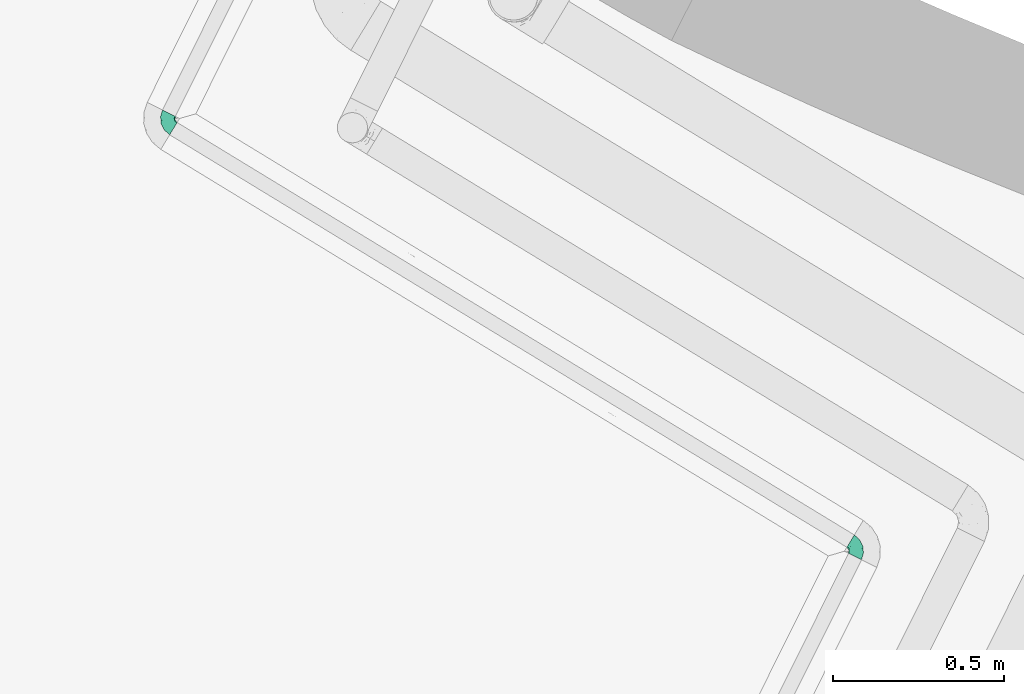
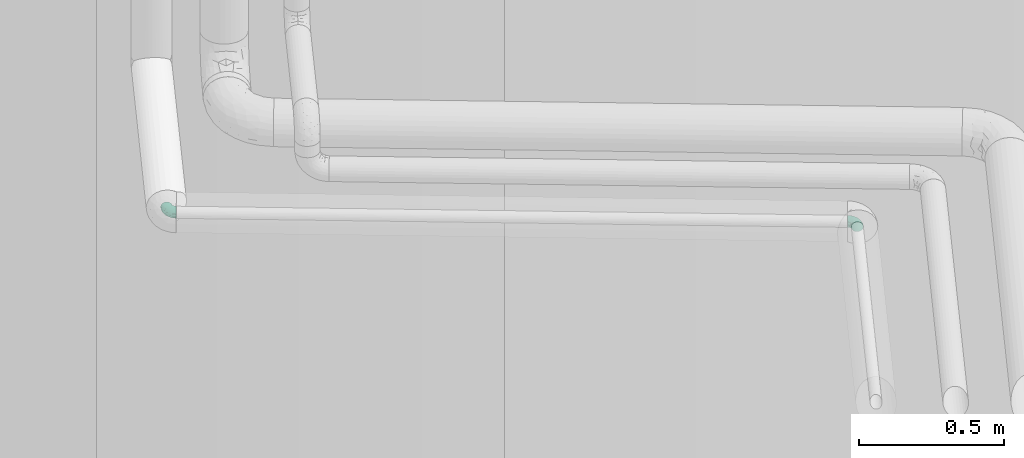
# One storey, part 39 of 47: 2 flow fittings.
"""IFC2X3 building model written with IfcOpenShell, lengths in metres."""

from ifc_helpers import new_model, entity, si_unit, converted_unit, derived_unit, direction, frame, origin, place, context, subcontext, project, spatial, faceted_brep, source, transform, mapped, type_object, type_shapes, element, save


model = new_model("IFC2X3")

# Units and contexts
model_context = context("Model", 3, precision=1e-05, world=origin(), true_north=direction((0.894925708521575, 0.446215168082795)))
context_of_model = context(None, 3, precision=1e-05, world=origin(), true_north=direction((0.894925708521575, 0.446215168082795)))
body_context = subcontext(model_context, "Body", "Model", "MODEL_VIEW")
ifc_project = project(units=[si_unit("LENGTHUNIT", "METRE"), si_unit("AREAUNIT", "SQUARE_METRE"), si_unit("VOLUMEUNIT", "CUBIC_METRE"), converted_unit("PLANEANGLEUNIT", "DEGREE", entity("IfcRatioMeasure", 0.0174532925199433), si_unit("PLANEANGLEUNIT", "RADIAN"), dimensions=[0, 0, 0, 0, 0, 0, 0]), si_unit("MASSUNIT", "GRAM", prefix="KILO"), si_unit("TIMEUNIT", "SECOND"), si_unit("FREQUENCYUNIT", "HERTZ"), si_unit("THERMODYNAMICTEMPERATUREUNIT", "DEGREE_CELSIUS"), derived_unit("THERMALTRANSMITTANCEUNIT", [(si_unit("MASSUNIT", "GRAM", prefix="KILO"), 1), (si_unit("THERMODYNAMICTEMPERATUREUNIT", "KELVIN"), -1), (si_unit("TIMEUNIT", "SECOND"), -3)]), derived_unit("VOLUMETRICFLOWRATEUNIT", [(si_unit("LENGTHUNIT", "METRE"), 3), (si_unit("TIMEUNIT", "SECOND"), -1)]), si_unit("ELECTRICCURRENTUNIT", "AMPERE"), si_unit("ELECTRICVOLTAGEUNIT", "VOLT"), si_unit("POWERUNIT", "WATT"), si_unit("FORCEUNIT", "NEWTON", prefix="KILO"), si_unit("ILLUMINANCEUNIT", "LUX"), si_unit("LUMINOUSFLUXUNIT", "LUMEN"), si_unit("LUMINOUSINTENSITYUNIT", "CANDELA"), si_unit("PRESSUREUNIT", "PASCAL")], contexts=[model_context, context_of_model])

# Site, building, storey
site_placement = place(None, frame((218.228324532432, 584.720189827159, 0.0), z_axis=(0.0, 0.0, 1.0), x_axis=(0.446215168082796, 0.894925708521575, 0.0)))
site = spatial("IfcSite", under=ifc_project, at=site_placement, Name="Default", CompositionType="ELEMENT")
building_placement = place(site_placement, origin())
building = spatial("IfcBuilding", under=site, at=building_placement, CompositionType="ELEMENT")
storey_placement = place(building_placement, frame((0.0, 0.0, 4.69)))
storey = spatial("IfcBuildingStorey", under=building, at=storey_placement, Name="1 - Piano Primo", CompositionType="ELEMENT", Elevation=4.69)

# Flow fittings
pipe_fitting_type = type_object("IfcPipeFittingType", Name="Standard", PredefinedType="NOTDEFINED")
shared_shape = source(origin(), body_context, "Body", "Brep", [
    faceted_brep([(-0.0319999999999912, 0.0054610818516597, -0.0203810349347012), (-0.0319999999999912, 0.0, -0.0211000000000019), (-0.0319999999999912, -0.00546108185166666, -0.0203810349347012), (-0.0319999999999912, -0.0105500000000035, -0.0182731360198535), (-0.0319999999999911, -0.0149199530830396, -0.0149199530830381), (-0.0319999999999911, -0.0182731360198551, -0.0105500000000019), (-0.0319999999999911, -0.0203810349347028, -0.00546108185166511), (-0.0319999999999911, -0.0211000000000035, 0.0), (-0.0319999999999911, -0.0203810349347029, 0.00546108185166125), (-0.0319999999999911, -0.0182731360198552, 0.0105499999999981), (-0.0319999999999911, -0.0149199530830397, 0.0149199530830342), (-0.0319999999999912, -0.0105500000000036, 0.0182731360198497), (-0.0319999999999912, -0.00546108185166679, 0.0203810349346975), (-0.0319999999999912, 0.0, 0.0210999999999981), (-0.0319999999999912, 0.00546108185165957, 0.0203810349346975), (-0.0319999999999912, 0.0105499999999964, 0.0182731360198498), (-0.0319999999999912, 0.0149199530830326, 0.0149199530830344), (-0.0319999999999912, 0.0182731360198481, 0.0105499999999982), (-0.0319999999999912, 0.0203810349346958, 0.00546108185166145), (-0.0319999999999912, 0.0210999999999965, 0.0), (-0.0319999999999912, 0.0203810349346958, -0.00546108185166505), (-0.0319999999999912, 0.0182731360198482, -0.0105500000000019), (-0.0319999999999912, 0.0149199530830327, -0.014919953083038), (-0.0319999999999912, 0.0105499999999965, -0.0182731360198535), (-0.00274009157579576, 0.0323467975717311, -0.0203810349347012), (-0.00781084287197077, 0.0327764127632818, -0.0182731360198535), (-0.0121651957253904, 0.0331453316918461, -0.014919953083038), (-0.0155064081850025, 0.0334284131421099, -0.0105500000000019), (-0.0176067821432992, 0.0336063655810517, -0.00546108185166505), (-0.0183231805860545, 0.033667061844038, 0.0), (-0.0176067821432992, 0.0336063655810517, 0.00546108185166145), (-0.0155064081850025, 0.0334284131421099, 0.0105499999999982), (-0.0121651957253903, 0.0331453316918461, 0.0149199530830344), (-0.00781084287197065, 0.0327764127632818, 0.0182731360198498), (-0.00274009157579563, 0.0323467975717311, 0.0203810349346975), (0.00270149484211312, 0.0318857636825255, 0.0210999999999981), (0.00814308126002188, 0.03142472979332, 0.0203810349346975), (0.0132138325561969, 0.0309951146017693, 0.0182731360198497), (0.0175681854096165, 0.030626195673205, 0.0149199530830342), (0.0209093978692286, 0.0303431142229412, 0.0105499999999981), (0.0230097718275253, 0.0301651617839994, 0.00546108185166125), (0.0237261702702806, 0.0301044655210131, 0.0), (0.0230097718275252, 0.0301651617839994, -0.00546108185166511), (0.0209093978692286, 0.0303431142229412, -0.0105500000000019), (0.0175681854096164, 0.030626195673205, -0.0149199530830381), (0.0132138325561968, 0.0309951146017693, -0.0182731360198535), (0.00814308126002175, 0.03142472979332, -0.0203810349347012), (0.002701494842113, 0.0318857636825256, -0.0211000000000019), (-0.0228344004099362, -0.0167212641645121, 0.011743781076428), (-0.019943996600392, -0.0127075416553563, 0.015595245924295), (-0.0218473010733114, -0.019191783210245, 0.0), (-0.0126694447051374, -0.0147164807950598, 0.0104084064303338), (-0.0202987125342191, -0.0188453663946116, 0.00639957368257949), (0.0182091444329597, 0.0101937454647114, 0.0), (0.0156732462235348, 0.00677765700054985, 0.00505161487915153), (0.01202430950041, 0.00191930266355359, 0.0), (0.0120332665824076, 0.0100575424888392, 0.0141019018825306), (0.0143458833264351, 0.0188000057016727, 0.0155952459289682), (0.00779096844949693, 0.00980537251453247, 0.0172310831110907), (-0.0225441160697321, -0.00834284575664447, 0.0189071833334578), (-0.0233308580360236, 0.00247492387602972, 0.0210578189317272), (-0.0217008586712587, 0.00828928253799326, 0.0201184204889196), (-0.0244973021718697, 0.0129337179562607, 0.0175698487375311), (-0.00807662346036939, -0.0150451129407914, 0.00505161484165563), (-0.0116946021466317, -0.0172835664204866, 0.0), (-0.00292756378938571, -0.0118193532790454, 0.0), (-0.0104280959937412, -0.00693536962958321, 0.0172310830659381), (-0.0156782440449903, -0.00576899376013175, 0.019118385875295), (-0.00642766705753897, 0.022323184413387, 0.020118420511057), (-0.010819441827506, 0.0255017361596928, 0.017569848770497), (-0.0120957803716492, 0.0183339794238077, 0.0190950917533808), (-0.0253530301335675, 0.0170922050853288, 0.0138852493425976), (-0.0238330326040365, -0.00314048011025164, 0.020715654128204), (-0.00471565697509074, 0.0159686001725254, 0.0210346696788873), (-0.000496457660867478, 0.023456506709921, 0.0210578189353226), (-0.0275617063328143, 0.0215159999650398, 0.00357169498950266), (-0.0251083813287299, 0.020470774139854, 0.00937640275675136), (-0.0226034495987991, 0.0239011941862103, 0.00532883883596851), (-0.0184625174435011, 0.0200928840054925, 0.0150214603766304), (-0.0190487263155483, 0.0252951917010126, 0.00968537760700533), (-0.00244406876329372, -0.00779348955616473, 0.0124451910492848), (6.56898268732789e-05, -7.14913407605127e-05, 0.0169497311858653), (-0.0155858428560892, 0.00603284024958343, 0.0210327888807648), (0.0157335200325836, 0.0113818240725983, 0.0104084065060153), (0.0185892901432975, 0.0213412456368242, 0.0117437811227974), (-0.00211040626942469, 0.00832054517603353, 0.0204686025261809), (-0.00529935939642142, 0.00168173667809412, 0.0196309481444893), (0.00176508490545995, 0.00652418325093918, 0.0189732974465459), (0.0204917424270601, 0.0186352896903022, 0.00639957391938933), (0.00514129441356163, 0.0234828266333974, 0.0207156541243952), (0.0209676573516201, 0.0201491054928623, 0.0), (-0.011440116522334, 0.01245035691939, 0.0206278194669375), (-0.00817416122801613, 0.0064987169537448, 0.0209861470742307), (-0.0148908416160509, 0.0267054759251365, 0.0138852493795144), (-0.0227130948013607, 0.0247188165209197, 0.0), (-0.0190427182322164, 0.0280498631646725, 0.00608426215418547), (-0.0110375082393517, -0.0111412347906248, 0.0141019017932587), (0.0102162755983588, 0.0217593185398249, 0.0189071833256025), (-0.0171183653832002, 0.0130771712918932, 0.0193239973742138), (0.00267335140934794, 0.0142987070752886, 0.0203791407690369), (-0.0144733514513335, -0.00145668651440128, 0.0203791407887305), (-0.0167763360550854, 0.0173101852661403, 0.017612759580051), (0.00097486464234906, -0.00918102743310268, 0.00621285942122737), (-0.00498515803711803, -0.0117424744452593, 0.00915370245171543), (0.00583947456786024, -0.00635514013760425, 0.0), (0.00919479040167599, -0.00193279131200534, 0.00544722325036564), (0.00707198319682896, 0.0151352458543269, 0.0191183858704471), (0.0079719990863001, 0.00177740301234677, 0.0124451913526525), (0.00336248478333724, -0.00365941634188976, 0.0118780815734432), (0.00758017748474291, -0.00163927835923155, 0.00919437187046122), (0.0122037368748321, 0.00374689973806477, 0.00872845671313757), (0.0156732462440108, 0.00677765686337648, -0.00505161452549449), (-0.0233308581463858, 0.00247492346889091, -0.0210578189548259), (-0.0217008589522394, 0.00828928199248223, -0.0201184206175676), (-0.0235967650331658, 0.0211161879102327, -0.00968537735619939), (-0.0184625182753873, 0.0200928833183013, -0.0150214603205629), (-0.0253530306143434, 0.0170922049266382, -0.0138852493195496), (-0.0199439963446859, -0.0127075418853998, -0.0155952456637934), (-0.000496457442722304, 0.0234565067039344, -0.021057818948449), (-0.00642766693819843, 0.0223231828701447, -0.0201184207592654), (-0.0263421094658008, 0.0213427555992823, -0.00608426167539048), (-0.0108194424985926, 0.0255017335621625, -0.0175698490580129), (-0.00811267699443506, 0.00280530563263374, -0.0204686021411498), (-0.00122835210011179, 0.00542241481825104, -0.0196309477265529), (-0.00664990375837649, -0.00120800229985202, -0.018973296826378), (-0.0244973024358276, 0.0129337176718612, -0.0175698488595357), (-0.0202987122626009, -0.0188453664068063, -0.00639957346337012), (-0.0228344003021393, -0.0167212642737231, -0.0117437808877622), (-0.0225441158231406, -0.00834284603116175, -0.0189071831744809), (-0.0172473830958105, 0.0136003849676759, -0.0190950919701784), (-0.0114401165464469, 0.0124503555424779, -0.020627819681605), (0.012033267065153, 0.010057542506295, -0.0141019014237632), (0.00779096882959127, 0.00980537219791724, -0.0172310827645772), (0.0143458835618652, 0.0188000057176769, -0.0155952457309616), (-0.0104280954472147, -0.00693537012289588, -0.0172310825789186), (-0.0238330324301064, -0.00314048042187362, -0.0207156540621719), (-0.012669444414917, -0.0147164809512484, -0.0104084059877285), (-0.011585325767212, 0.0181612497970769, -0.0193239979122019), (-0.00807662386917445, -0.015045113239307, -0.00505161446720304), (-0.0219076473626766, 0.0245405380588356, -0.00532883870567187), (-0.0191123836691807, 0.0292797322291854, -0.00357169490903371), (0.0204917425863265, 0.0186352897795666, -0.00639957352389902), (-0.0110375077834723, -0.0111412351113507, -0.0141019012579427), (-0.0182780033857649, 0.0267469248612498, -0.00937640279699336), (-0.0148908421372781, 0.026705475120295, -0.0138852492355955), (0.018589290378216, 0.0213412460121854, -0.0117437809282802), (0.0051412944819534, 0.0234828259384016, -0.0207156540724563), (0.0102162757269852, 0.0217593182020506, -0.0189071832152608), (0.0070719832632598, 0.0151352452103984, -0.0191183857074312), (0.000974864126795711, -0.00918102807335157, -0.00621285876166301), (-0.00498515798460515, -0.0117424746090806, -0.00915370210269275), (-0.0024440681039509, -0.00779348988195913, -0.012445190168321), (-0.0155134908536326, 0.00604691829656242, -0.0210346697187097), (-0.00578544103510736, 0.00869361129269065, -0.0209861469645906), (0.0157335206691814, 0.0113818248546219, -0.0104084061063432), (-0.00469551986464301, 0.0160395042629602, -0.0210327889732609), (-0.0144733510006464, -0.00145668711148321, -0.0203791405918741), (0.00267335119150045, 0.0142987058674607, -0.02037914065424), (-0.0158321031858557, 0.0181778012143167, -0.0176127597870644), (6.56906373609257e-05, -7.14919748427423e-05, -0.0169497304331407), (-0.0156782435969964, -0.00576899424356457, -0.0191183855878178), (0.0079720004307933, 0.00177740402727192, -0.0124451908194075), (0.0122037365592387, 0.00374689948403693, -0.00872845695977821), (0.00919479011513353, -0.00193279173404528, -0.0054472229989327), (0.00336248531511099, -0.00365941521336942, -0.0118780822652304), (0.00758017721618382, -0.00163927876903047, -0.00919437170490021)], [[[0, 1, 2, 3, 4, 5, 6, 7, 8, 9, 10, 11, 12, 13, 14, 15, 16, 17, 18, 19, 20, 21, 22, 23]], [[24, 25, 26, 27, 28, 29, 30, 31, 32, 33, 34, 35, 36, 37, 38, 39, 40, 41, 42, 43, 44, 45, 46, 47]], [[10, 48, 49]], [[8, 7, 50]], [[51, 48, 52]], [[53, 54, 55]], [[48, 10, 9]], [[8, 52, 9]], [[56, 57, 58]], [[49, 11, 10]], [[49, 59, 11]], [[14, 60, 61]], [[62, 15, 61]], [[63, 64, 65]], [[59, 66, 67]], [[62, 16, 15]], [[68, 69, 70]], [[71, 17, 16]], [[72, 13, 12]], [[57, 38, 37]], [[68, 73, 74]], [[75, 76, 77]], [[74, 34, 68]], [[19, 18, 75]], [[78, 79, 76]], [[14, 13, 60]], [[14, 61, 15]], [[33, 32, 69]], [[80, 81, 66]], [[61, 60, 82]], [[83, 84, 57]], [[85, 86, 87]], [[39, 88, 40]], [[36, 35, 89]], [[56, 83, 57]], [[88, 53, 90]], [[73, 91, 92]], [[84, 39, 38]], [[17, 76, 18]], [[39, 84, 88]], [[93, 69, 32]], [[94, 95, 29]], [[96, 66, 49]], [[95, 31, 30]], [[8, 50, 52]], [[79, 78, 93]], [[63, 52, 64]], [[77, 95, 94]], [[97, 37, 36]], [[34, 33, 68]], [[54, 88, 83]], [[33, 69, 68]], [[90, 40, 88]], [[32, 31, 93]], [[74, 35, 34]], [[11, 59, 12]], [[57, 97, 58]], [[97, 57, 37]], [[68, 70, 91]], [[98, 61, 91]], [[73, 68, 91]], [[89, 74, 99]], [[72, 60, 13]], [[100, 92, 82]], [[98, 91, 70]], [[62, 101, 71]], [[66, 59, 49]], [[64, 52, 50]], [[59, 67, 72]], [[96, 49, 51]], [[66, 81, 86]], [[102, 103, 63]], [[102, 104, 105]], [[89, 97, 36]], [[41, 40, 90]], [[86, 81, 87]], [[106, 58, 97]], [[58, 81, 107]], [[80, 108, 81]], [[109, 108, 102]], [[76, 17, 71]], [[77, 76, 79]], [[102, 65, 104]], [[54, 110, 105]], [[103, 102, 80]], [[105, 104, 55]], [[105, 55, 54]], [[109, 105, 110]], [[52, 48, 9]], [[49, 48, 51]], [[57, 84, 38]], [[88, 84, 83]], [[79, 93, 31]], [[69, 93, 78]], [[62, 71, 16]], [[76, 71, 78]], [[74, 89, 35]], [[89, 99, 106]], [[59, 72, 12]], [[60, 72, 100]], [[102, 63, 65]], [[52, 63, 51]], [[88, 54, 53]], [[54, 83, 110]], [[78, 101, 69]], [[101, 62, 98]], [[101, 98, 70]], [[62, 61, 98]], [[82, 91, 61]], [[99, 74, 73]], [[86, 92, 100]], [[73, 92, 85]], [[95, 77, 79]], [[94, 19, 75]], [[100, 82, 60]], [[91, 82, 92]], [[86, 100, 67]], [[81, 58, 87]], [[106, 87, 58]], [[85, 87, 99]], [[69, 101, 70]], [[101, 78, 71]], [[73, 85, 99]], [[86, 85, 92]], [[56, 110, 83]], [[109, 110, 107]], [[108, 109, 107]], [[102, 105, 109]], [[81, 108, 107]], [[102, 108, 80]], [[103, 96, 51]], [[80, 66, 96]], [[86, 67, 66]], [[72, 67, 100]], [[89, 106, 97]], [[87, 106, 99]], [[58, 107, 56]], [[110, 56, 107]], [[96, 103, 80]], [[63, 103, 51]], [[31, 95, 79]], [[29, 95, 30]], [[76, 75, 18]], [[94, 75, 77]], [[111, 53, 55]], [[112, 0, 113]], [[113, 0, 23]], [[112, 1, 0]], [[114, 115, 116]], [[117, 4, 3]], [[21, 116, 22]], [[24, 118, 119]], [[20, 120, 21]], [[121, 25, 119]], [[122, 123, 124]], [[23, 125, 113]], [[126, 5, 127]], [[128, 3, 2]], [[126, 64, 50]], [[113, 129, 130]], [[5, 4, 127]], [[131, 132, 133]], [[117, 3, 128]], [[23, 22, 125]], [[117, 128, 134]], [[6, 5, 126]], [[135, 2, 1]], [[127, 117, 136]], [[137, 119, 130]], [[138, 126, 136]], [[94, 139, 120]], [[116, 125, 22]], [[29, 28, 140]], [[111, 141, 53]], [[117, 142, 136]], [[114, 143, 115]], [[144, 27, 26]], [[64, 138, 65]], [[119, 25, 24]], [[44, 145, 133]], [[142, 117, 134]], [[121, 26, 25]], [[113, 125, 129]], [[47, 46, 146]], [[44, 133, 45]], [[147, 132, 148]], [[149, 150, 151]], [[43, 145, 44]], [[152, 130, 153]], [[147, 45, 133]], [[154, 145, 141]], [[24, 47, 118]], [[41, 90, 42]], [[42, 90, 141]], [[50, 6, 126]], [[42, 141, 43]], [[119, 118, 155]], [[113, 152, 112]], [[94, 120, 19]], [[139, 140, 143]], [[27, 143, 28]], [[45, 147, 46]], [[152, 113, 130]], [[135, 112, 156]], [[146, 118, 47]], [[157, 153, 155]], [[137, 130, 129]], [[121, 158, 144]], [[135, 128, 2]], [[7, 6, 50]], [[123, 159, 124]], [[160, 134, 128]], [[134, 159, 151]], [[161, 159, 132]], [[149, 104, 65]], [[132, 147, 133]], [[53, 141, 90]], [[147, 148, 146]], [[131, 133, 154]], [[132, 159, 123]], [[162, 111, 163]], [[159, 161, 164]], [[143, 27, 144]], [[139, 143, 114]], [[104, 163, 55]], [[149, 65, 138]], [[165, 164, 161]], [[104, 149, 163]], [[161, 162, 165]], [[111, 162, 154]], [[117, 127, 4]], [[126, 127, 136]], [[141, 145, 43]], [[133, 145, 154]], [[114, 116, 21]], [[125, 116, 115]], [[121, 144, 26]], [[143, 144, 115]], [[112, 135, 1]], [[135, 156, 160]], [[147, 146, 46]], [[118, 146, 157]], [[126, 138, 64]], [[138, 136, 150]], [[163, 111, 55]], [[141, 111, 154]], [[115, 158, 125]], [[158, 121, 137]], [[158, 137, 129]], [[121, 119, 137]], [[155, 130, 119]], [[156, 112, 152]], [[123, 153, 157]], [[152, 153, 122]], [[120, 139, 114]], [[94, 29, 140]], [[157, 155, 118]], [[130, 155, 153]], [[123, 157, 148]], [[159, 134, 124]], [[160, 124, 134]], [[122, 124, 156]], [[125, 158, 129]], [[158, 115, 144]], [[152, 122, 156]], [[123, 122, 153]], [[165, 162, 163]], [[131, 162, 161]], [[163, 149, 165]], [[164, 149, 151]], [[149, 164, 165]], [[159, 164, 151]], [[135, 160, 128]], [[124, 160, 156]], [[134, 151, 142]], [[150, 142, 151]], [[162, 131, 154]], [[161, 132, 131]], [[123, 148, 132]], [[146, 148, 157]], [[138, 150, 149]], [[142, 150, 136]], [[21, 120, 114]], [[19, 120, 20]], [[143, 140, 28]], [[94, 140, 139]]]),
])
type_shapes(pipe_fitting_type, [shared_shape])
flow_fitting_1_placement = place(storey_placement, frame((66.0657764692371, -1.77387722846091, 2.96000005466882), z_axis=(0.0, 0.0, 1.0), x_axis=(-1.0, 0.0, 0.0)))
element("IfcFlowFitting", 1, at=flow_fitting_1_placement, inside=storey, type_object=pipe_fitting_type, Name="M_Gomito - Saldato - Generico:Standard", ObjectType="Standard", context=body_context, shape_type="MappedRepresentation", body=[
    mapped(shared_shape, transform((0.0, 0.0, 0.0), scale=1.0)),
])
flow_fitting_2_placement = place(storey_placement, frame((65.864341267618, -4.15107899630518, 2.96)))
element("IfcFlowFitting", 2, at=flow_fitting_2_placement, inside=storey, type_object=pipe_fitting_type, Name="M_Gomito - Saldato - Generico:Standard", ObjectType="Standard", context=body_context, shape_type="MappedRepresentation", body=[
    mapped(shared_shape, transform((0.0, 0.0, 0.0), scale=1.0)),
])

save(model, "model.ifc")
